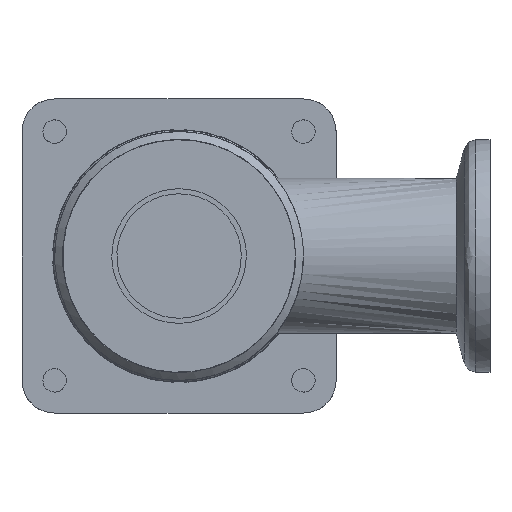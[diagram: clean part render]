
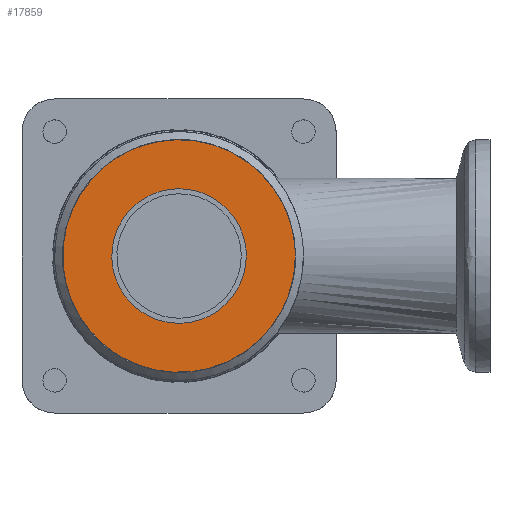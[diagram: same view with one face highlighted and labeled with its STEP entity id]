
A CAD part, front view. The second image highlights one B-rep face of the part: STEP entity #17859.
In plain terms, the highlighted free-form (B-spline) face has degree [1, 1] with [2, 2] control points.
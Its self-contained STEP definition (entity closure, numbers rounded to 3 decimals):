
#17801=CARTESIAN_POINT('V24',(0.,8.65,0.0)
   );
#17802=VERTEX_POINT('V24',#17801);
#17808=CARTESIAN_POINT('E39',(0.,8.65,0.0)
   );
#17809=CARTESIAN_POINT('E39',(0.,8.65,
   14.982));
#17810=CARTESIAN_POINT('E39',(0.,-4.325,
   7.491));
#17811=CARTESIAN_POINT('E39',(0.,-17.3,
   0.));
#17812=CARTESIAN_POINT('E39',(0.,-4.325,
   -7.491));
#17813=CARTESIAN_POINT('E39',(0.,8.65,
   -14.982));
#17814=CARTESIAN_POINT('E39',(0.,8.65,0.0)
   );
#17822=(BOUNDED_CURVE()B_SPLINE_CURVE(2,(#17808,#17809,#17810,
   #17811,#17812,#17813,#17814),.CIRCULAR_ARC.,.T.,.U.)
   B_SPLINE_CURVE_WITH_KNOTS((3,2,2,3),(0.0,0.333,
   0.667,1.0),.UNSPECIFIED.)CURVE()
   GEOMETRIC_REPRESENTATION_ITEM()RATIONAL_B_SPLINE_CURVE((1.0,
   0.5,1.0,0.5,1.0,0.5,1.0)
   )REPRESENTATION_ITEM('E39'));
#17823=EDGE_CURVE('E39',#17802,#17802,#17822,.T.);
#17830=CARTESIAN_POINT('F22',(0.,-16.452,
   16.452));
#17831=CARTESIAN_POINT('F22',(0.,16.452,
   16.452));
#17832=CARTESIAN_POINT('F22',(0.,-16.452,
   -16.452));
#17833=CARTESIAN_POINT('F22',(0.,16.452,
   -16.452));
#17834=QUASI_UNIFORM_SURFACE('F22',1,1,((#17830,#17832),(#17831,
   #17833)),.PLANE_SURF.,.F.,.F.,.U.);
#17835=CARTESIAN_POINT('V25',(0.,14.956,0.0)
   );
#17836=VERTEX_POINT('V25',#17835);
#17837=CARTESIAN_POINT('E40',(0.,14.956,0.0)
   );
#17838=CARTESIAN_POINT('E40',(0.,14.956,
   25.905));
#17839=CARTESIAN_POINT('E40',(0.,-7.478,
   12.952));
#17840=CARTESIAN_POINT('E40',(0.,-29.912,
   0.));
#17841=CARTESIAN_POINT('E40',(0.,-7.478,
   -12.952));
#17842=CARTESIAN_POINT('E40',(0.,14.956,
   -25.905));
#17843=CARTESIAN_POINT('E40',(0.,14.956,0.0)
   );
#17851=(BOUNDED_CURVE()B_SPLINE_CURVE(2,(#17837,#17838,#17839,
   #17840,#17841,#17842,#17843),.CIRCULAR_ARC.,.T.,.U.)
   B_SPLINE_CURVE_WITH_KNOTS((3,2,2,3),(0.0,28.02,
   56.04,84.06),.UNSPECIFIED.)CURVE()
   GEOMETRIC_REPRESENTATION_ITEM()RATIONAL_B_SPLINE_CURVE((1.0,
   0.5,1.0,0.5,1.0,0.5,1.0)
   )REPRESENTATION_ITEM('E40'));
#17852=EDGE_CURVE('E40',#17836,#17836,#17851,.T.);
#17853=ORIENTED_EDGE('E40',*,*,#17852,.T.);
#17854=EDGE_LOOP('F22',(#17853));
#17855=FACE_OUTER_BOUND('F22',#17854,.F.);
#17856=ORIENTED_EDGE('E39',*,*,#17823,.F.);
#17857=EDGE_LOOP('F22',(#17856));
#17858=FACE_BOUND('F22',#17857,.F.);
#17859=ADVANCED_FACE('F22',(#17855,#17858),#17834,.T.);
